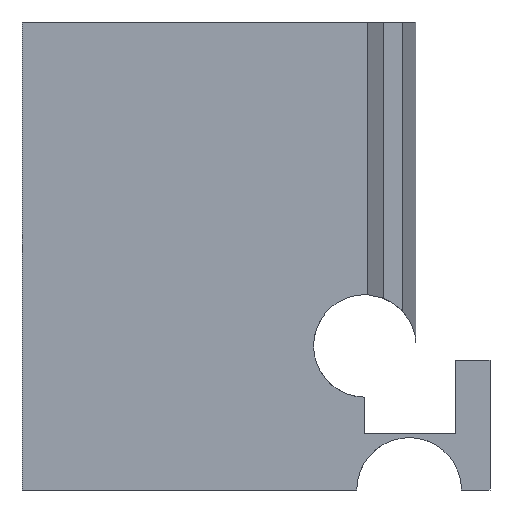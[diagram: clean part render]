
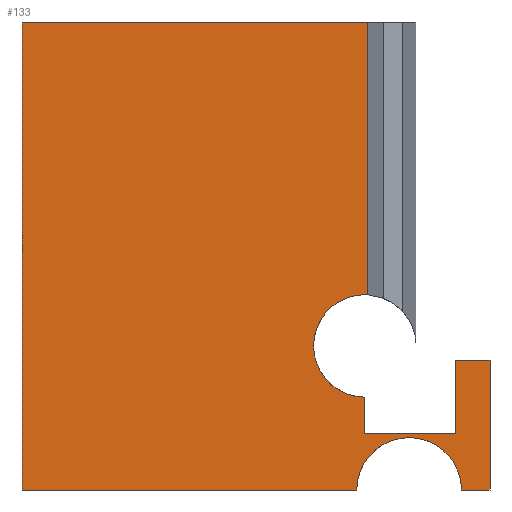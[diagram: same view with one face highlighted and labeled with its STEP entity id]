
A CAD part, left-side view. The second image highlights one B-rep face of the part: STEP entity #133.
In plain terms, the highlighted planar face has unit normal (-1, 0, 0).
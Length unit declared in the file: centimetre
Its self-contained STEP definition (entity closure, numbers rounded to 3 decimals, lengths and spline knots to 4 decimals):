
#11 = DIRECTION ( 'NONE',  ( 0., 0., 1. ) ) ;
#39 = VERTEX_POINT ( 'NONE', #993 ) ;
#46 = EDGE_CURVE ( 'NONE', #807, #1592, #313, .T. ) ;
#101 = ORIENTED_EDGE ( 'NONE', *, *, #878, .F. ) ;
#103 = VECTOR ( 'NONE', #1428, 100. ) ;
#127 = ORIENTED_EDGE ( 'NONE', *, *, #1168, .T. ) ;
#133 = ADVANCED_FACE ( 'NONE', ( #999 ), #456, .F. ) ;
#185 = ORIENTED_EDGE ( 'NONE', *, *, #499, .T. ) ;
#206 = CARTESIAN_POINT ( 'NONE',  ( 0., 73.9724, 120.3709 ) ) ;
#235 = AXIS2_PLACEMENT_3D ( 'NONE', #357, #350, #332 ) ;
#236 = VERTEX_POINT ( 'NONE', #252 ) ;
#252 = CARTESIAN_POINT ( 'NONE',  ( 0., 73.9724, 120.3709 ) ) ;
#285 = CARTESIAN_POINT ( 'NONE',  ( 0., 262.4727, 276.7428 ) ) ;
#297 = CARTESIAN_POINT ( 'NONE',  ( 0., 284.7318, 0. ) ) ;
#313 = CIRCLE ( 'NONE', #921, 109.4703 ) ;
#314 = VERTEX_POINT ( 'NONE', #671 ) ;
#322 = EDGE_CURVE ( 'NONE', #1592, #450, #1275, .T. ) ;
#332 = DIRECTION ( 'NONE',  ( 0., 0., -1. ) ) ;
#336 = ORIENTED_EDGE ( 'NONE', *, *, #541, .F. ) ;
#340 = DIRECTION ( 'NONE',  ( -1., 0., 0. ) ) ;
#346 = ORIENTED_EDGE ( 'NONE', *, *, #322, .F. ) ;
#348 = LINE ( 'NONE', #871, #982 ) ;
#350 = DIRECTION ( 'NONE',  ( 1., 0., 0. ) ) ;
#351 = CARTESIAN_POINT ( 'NONE',  ( 0., 1000., 0. ) ) ;
#357 = CARTESIAN_POINT ( 'NONE',  ( 0., 1000., 1000. ) ) ;
#377 = DIRECTION ( 'NONE',  ( 0., -1., 0. ) ) ;
#424 = VERTEX_POINT ( 'NONE', #1642 ) ;
#450 = VERTEX_POINT ( 'NONE', #897 ) ;
#456 = PLANE ( 'NONE',  #235 ) ;
#475 = CARTESIAN_POINT ( 'NONE',  ( 0., 267.5238, 417.4159 ) ) ;
#476 = EDGE_CURVE ( 'NONE', #754, #598, #659, .T. ) ;
#477 = VECTOR ( 'NONE', #1289, 100. ) ;
#486 = VECTOR ( 'NONE', #1488, 100. ) ;
#489 = ORIENTED_EDGE ( 'NONE', *, *, #1272, .T. ) ;
#499 = EDGE_CURVE ( 'NONE', #314, #816, #1029, .T. ) ;
#506 = VECTOR ( 'NONE', #1056, 100. ) ;
#507 = CARTESIAN_POINT ( 'NONE',  ( 0., 73.9724, 120.3709 ) ) ;
#508 = CIRCLE ( 'NONE', #834, 109.4703 ) ;
#522 = ORIENTED_EDGE ( 'NONE', *, *, #551, .F. ) ;
#541 = EDGE_CURVE ( 'NONE', #39, #807, #508, .T. ) ;
#546 = ORIENTED_EDGE ( 'NONE', *, *, #1129, .T. ) ;
#548 = VERTEX_POINT ( 'NONE', #934 ) ;
#551 = EDGE_CURVE ( 'NONE', #314, #769, #646, .T. ) ;
#594 = CARTESIAN_POINT ( 'NONE',  ( 0., 267.5238, 307.9457 ) ) ;
#595 = DIRECTION ( 'NONE',  ( 0., -1., 0. ) ) ;
#598 = VERTEX_POINT ( 'NONE', #1473 ) ;
#618 = CARTESIAN_POINT ( 'NONE',  ( 0., 262.4727, 276.7428 ) ) ;
#646 = LINE ( 'NONE', #653, #103 ) ;
#653 = CARTESIAN_POINT ( 'NONE',  ( 0., 1000., 1000. ) ) ;
#659 = LINE ( 'NONE', #285, #1027 ) ;
#671 = CARTESIAN_POINT ( 'NONE',  ( 0., 1000., 1000. ) ) ;
#689 = DIRECTION ( 'NONE',  ( 1., 0., 0. ) ) ;
#690 = ORIENTED_EDGE ( 'NONE', *, *, #1003, .F. ) ;
#695 = EDGE_CURVE ( 'NONE', #964, #548, #1100, .T. ) ;
#702 = VECTOR ( 'NONE', #1021, 100. ) ;
#714 = DIRECTION ( 'NONE',  ( 0., 0., -1. ) ) ;
#754 = VERTEX_POINT ( 'NONE', #1462 ) ;
#769 = VERTEX_POINT ( 'NONE', #1259 ) ;
#781 = DIRECTION ( 'NONE',  ( 0., 0., 1. ) ) ;
#798 = DIRECTION ( 'NONE',  ( -1., 0., 0. ) ) ;
#807 = VERTEX_POINT ( 'NONE', #475 ) ;
#815 = ORIENTED_EDGE ( 'NONE', *, *, #46, .F. ) ;
#816 = VERTEX_POINT ( 'NONE', #351 ) ;
#834 = AXIS2_PLACEMENT_3D ( 'NONE', #1561, #798, #781 ) ;
#855 = DIRECTION ( 'NONE',  ( 0., 0., 1. ) ) ;
#871 = CARTESIAN_POINT ( 'NONE',  ( 0., 1000., 0. ) ) ;
#878 = EDGE_CURVE ( 'NONE', #450, #236, #1354, .T. ) ;
#897 = CARTESIAN_POINT ( 'NONE',  ( 0., 267.5238, 120.3709 ) ) ;
#903 = DIRECTION ( 'NONE',  ( 0., 0., -1. ) ) ;
#909 = CARTESIAN_POINT ( 'NONE',  ( 0., 267.5238, 120.3709 ) ) ;
#921 = AXIS2_PLACEMENT_3D ( 'NONE', #594, #340, #855 ) ;
#929 = VECTOR ( 'NONE', #595, 100. ) ;
#934 = CARTESIAN_POINT ( 'NONE',  ( 0., 60.8586, 0. ) ) ;
#943 = CARTESIAN_POINT ( 'NONE',  ( 0., 172.7952, 0. ) ) ;
#956 = LINE ( 'NONE', #1452, #1340 ) ;
#964 = VERTEX_POINT ( 'NONE', #297 ) ;
#974 = AXIS2_PLACEMENT_3D ( 'NONE', #943, #689, #714 ) ;
#982 = VECTOR ( 'NONE', #1262, 100. ) ;
#993 = CARTESIAN_POINT ( 'NONE',  ( 0., 262.4727, 417.2993 ) ) ;
#999 = FACE_OUTER_BOUND ( 'NONE', #1528, .T. ) ;
#1003 = EDGE_CURVE ( 'NONE', #598, #424, #956, .T. ) ;
#1021 = DIRECTION ( 'NONE',  ( 0., 0., 1. ) ) ;
#1027 = VECTOR ( 'NONE', #377, 100. ) ;
#1029 = LINE ( 'NONE', #1554, #506 ) ;
#1056 = DIRECTION ( 'NONE',  ( 0., 0., -1. ) ) ;
#1100 = CIRCLE ( 'NONE', #974, 111.9366 ) ;
#1109 = CARTESIAN_POINT ( 'NONE',  ( 0., 267.5238, 198.4754 ) ) ;
#1129 = EDGE_CURVE ( 'NONE', #548, #424, #1350, .T. ) ;
#1168 = EDGE_CURVE ( 'NONE', #39, #769, #1251, .T. ) ;
#1224 = CARTESIAN_POINT ( 'NONE',  ( 0., 1000., 0. ) ) ;
#1238 = EDGE_CURVE ( 'NONE', #236, #754, #1379, .T. ) ;
#1251 = LINE ( 'NONE', #618, #702 ) ;
#1259 = CARTESIAN_POINT ( 'NONE',  ( 0., 262.4727, 1000. ) ) ;
#1262 = DIRECTION ( 'NONE',  ( 0., -1., 0. ) ) ;
#1272 = EDGE_CURVE ( 'NONE', #816, #964, #348, .T. ) ;
#1275 = LINE ( 'NONE', #909, #477 ) ;
#1289 = DIRECTION ( 'NONE',  ( 0., 0., -1. ) ) ;
#1340 = VECTOR ( 'NONE', #903, 100. ) ;
#1350 = LINE ( 'NONE', #1224, #486 ) ;
#1354 = LINE ( 'NONE', #206, #929 ) ;
#1368 = ORIENTED_EDGE ( 'NONE', *, *, #476, .F. ) ;
#1379 = LINE ( 'NONE', #507, #1425 ) ;
#1425 = VECTOR ( 'NONE', #11, 100. ) ;
#1428 = DIRECTION ( 'NONE',  ( 0., -1., 0. ) ) ;
#1452 = CARTESIAN_POINT ( 'NONE',  ( 0., 0., 1000. ) ) ;
#1462 = CARTESIAN_POINT ( 'NONE',  ( 0., 73.9724, 276.7428 ) ) ;
#1473 = CARTESIAN_POINT ( 'NONE',  ( 0., 0., 276.7428 ) ) ;
#1488 = DIRECTION ( 'NONE',  ( 0., -1., 0. ) ) ;
#1528 = EDGE_LOOP ( 'NONE', ( #489, #1593, #546, #690, #1368, #1570, #101, #346, #815, #336, #127, #522, #185 ) ) ;
#1554 = CARTESIAN_POINT ( 'NONE',  ( 0., 1000., 1000. ) ) ;
#1561 = CARTESIAN_POINT ( 'NONE',  ( 0., 267.5238, 307.9457 ) ) ;
#1570 = ORIENTED_EDGE ( 'NONE', *, *, #1238, .F. ) ;
#1592 = VERTEX_POINT ( 'NONE', #1109 ) ;
#1593 = ORIENTED_EDGE ( 'NONE', *, *, #695, .T. ) ;
#1642 = CARTESIAN_POINT ( 'NONE',  ( 0., 0., 0. ) ) ;
